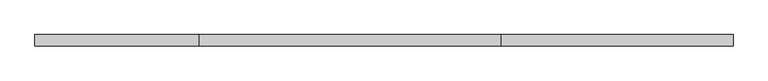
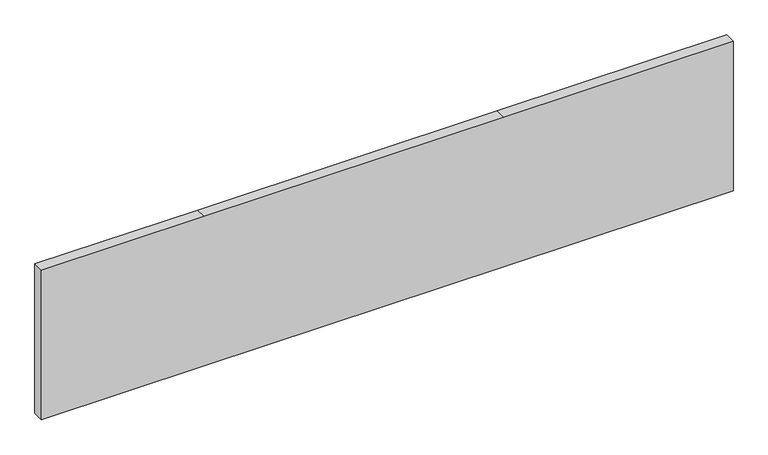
"""IFC4 building model written with IfcOpenShell, lengths in millimetres: plate geometry, Panneau système : Vitré."""

from ifc_helpers import new_model, si_unit, frame, origin, place, context, project, spatial, polyline, outline, extrude, source, transform, mapped, element, save


def plate_cfa962c9(model_context):
    return source(origin(), model_context, "Body", "SweptSolid", [
        extrude(outline(polyline([(0.0, -1231.0485773), (0.0, -651.1190914), (0.0, 413.9514189), (0.0, 1231.0485773), (561.6666667, 1231.0485773), (561.6666667, 413.9514189), (561.6666667, -651.1190914), (561.6666667, -1231.0485773), (0.0, -1231.0485773)])), frame((0.0, -20.0, 0.0), z_axis=(0.0, 1.0, 0.0), x_axis=(0.0, 0.0, 1.0)), (0.0, 0.0, 1.0), 40.0),
    ])


if __name__ == "__main__":
    model = new_model("IFC4")
    model_context = context("Model", 3, world=origin())
    ifc_project = project(units=[si_unit("LENGTHUNIT", "METRE", prefix="MILLI")], contexts=[model_context])
    site = spatial("IfcSite", under=ifc_project)
    building = spatial("IfcBuilding", under=site)
    placement = place(None, origin())
    plate_shape = plate_cfa962c9(model_context)
    element("IfcPlate", 1, ObjectType="Panneau système : Vitré", at=placement, inside=building, context=model_context, shape_type="MappedRepresentation", body=[
        mapped(plate_shape, transform((0.0, 0.0, 0.0), x_axis=(1.0, 0.0, 0.0), y_axis=(0.0, 1.0, 0.0), z_axis=(0.0, 0.0, 1.0))),
    ])
    save(model, "model.ifc")
